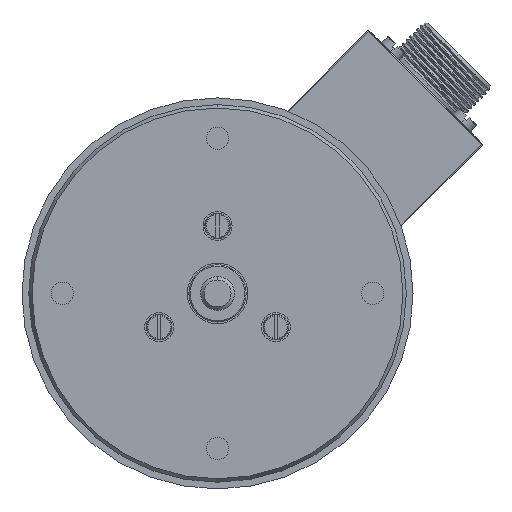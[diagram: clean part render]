
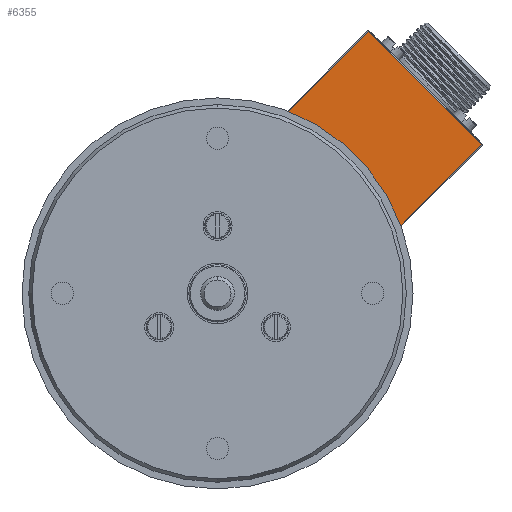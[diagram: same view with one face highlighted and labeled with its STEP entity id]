
A CAD part, left-side view. The second image highlights one B-rep face of the part: STEP entity #6355.
In plain terms, the highlighted planar face has unit normal (-1, 0, 0).
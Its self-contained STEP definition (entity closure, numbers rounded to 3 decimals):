
#668 = VECTOR ( 'NONE', #4362, 1000. ) ;
#1074 = CIRCLE ( 'NONE', #5970, 0.1 ) ;
#1120 = EDGE_CURVE ( 'NONE', #2413, #13934, #5117, .T. ) ;
#1547 = DIRECTION ( 'NONE',  ( 1., 0., 0. ) ) ;
#2313 = FACE_OUTER_BOUND ( 'NONE', #8340, .T. ) ;
#2413 = VERTEX_POINT ( 'NONE', #10008 ) ;
#2843 = CARTESIAN_POINT ( 'NONE',  ( 25.408, -9.954, 28.406 ) ) ;
#3964 = CARTESIAN_POINT ( 'NONE',  ( 25.408, 6.953, 45.158 ) ) ;
#3969 = DIRECTION ( 'NONE',  ( 0., 0.707, 0.707 ) ) ;
#4039 = AXIS2_PLACEMENT_3D ( 'NONE', #8347, #1547, #9477 ) ;
#4362 = DIRECTION ( 'NONE',  ( 0., -0.707, 0.707 ) ) ;
#4395 = VERTEX_POINT ( 'NONE', #11354 ) ;
#4547 = CARTESIAN_POINT ( 'NONE',  ( 25.408, 16.85, 18.431 ) ) ;
#4925 = VECTOR ( 'NONE', #11764, 1000. ) ;
#5117 = LINE ( 'NONE', #9487, #5140 ) ;
#5140 = VECTOR ( 'NONE', #13961, 1000. ) ;
#5683 = DIRECTION ( 'NONE',  ( 0., -0.707, -0.707 ) ) ;
#5890 = CIRCLE ( 'NONE', #12104, 28.5 ) ;
#5970 = AXIS2_PLACEMENT_3D ( 'NONE', #2843, #10687, #3969 ) ;
#6013 = PLANE ( 'NONE',  #4039 ) ;
#6039 = EDGE_CURVE ( 'NONE', #4395, #6615, #1074, .T. ) ;
#6158 = EDGE_CURVE ( 'NONE', #4395, #13934, #5890, .T. ) ;
#6355 = ADVANCED_FACE ( 'NONE', ( #2313 ), #6013, .F. ) ;
#6615 = VERTEX_POINT ( 'NONE', #11255 ) ;
#7063 = LINE ( 'NONE', #12880, #4925 ) ;
#7385 = ORIENTED_EDGE ( 'NONE', *, *, #9747, .T. ) ;
#8164 = LINE ( 'NONE', #13273, #668 ) ;
#8340 = EDGE_LOOP ( 'NONE', ( #7385, #12598, #10489, #10506, #10630 ) ) ;
#8347 = CARTESIAN_POINT ( 'NONE',  ( 25.408, -5.424, 57.676 ) ) ;
#9303 = VERTEX_POINT ( 'NONE', #11504 ) ;
#9477 = DIRECTION ( 'NONE',  ( 0., 0.707, 0.707 ) ) ;
#9487 = CARTESIAN_POINT ( 'NONE',  ( 25.408, -5.495, 57.605 ) ) ;
#9747 = EDGE_CURVE ( 'NONE', #9303, #2413, #7063, .T. ) ;
#10008 = CARTESIAN_POINT ( 'NONE',  ( 25.408, -5.424, 57.534 ) ) ;
#10489 = ORIENTED_EDGE ( 'NONE', *, *, #6158, .F. ) ;
#10506 = ORIENTED_EDGE ( 'NONE', *, *, #6039, .T. ) ;
#10630 = ORIENTED_EDGE ( 'NONE', *, *, #12235, .T. ) ;
#10687 = DIRECTION ( 'NONE',  ( -1., 0., 0. ) ) ;
#11255 = CARTESIAN_POINT ( 'NONE',  ( 25.408, -9.884, 28.336 ) ) ;
#11354 = CARTESIAN_POINT ( 'NONE',  ( 25.408, -9.861, 28.371 ) ) ;
#11504 = CARTESIAN_POINT ( 'NONE',  ( 25.408, -22.253, 40.705 ) ) ;
#11764 = DIRECTION ( 'NONE',  ( 0., 0.707, 0.707 ) ) ;
#12104 = AXIS2_PLACEMENT_3D ( 'NONE', #4547, #12383, #5683 ) ;
#12235 = EDGE_CURVE ( 'NONE', #6615, #9303, #8164, .T. ) ;
#12383 = DIRECTION ( 'NONE',  ( -1., 0., 0. ) ) ;
#12598 = ORIENTED_EDGE ( 'NONE', *, *, #1120, .T. ) ;
#12880 = CARTESIAN_POINT ( 'NONE',  ( 25.408, -5.353, 57.605 ) ) ;
#13273 = CARTESIAN_POINT ( 'NONE',  ( 25.408, -22.324, 40.776 ) ) ;
#13934 = VERTEX_POINT ( 'NONE', #3964 ) ;
#13961 = DIRECTION ( 'NONE',  ( 0., 0.707, -0.707 ) ) ;
